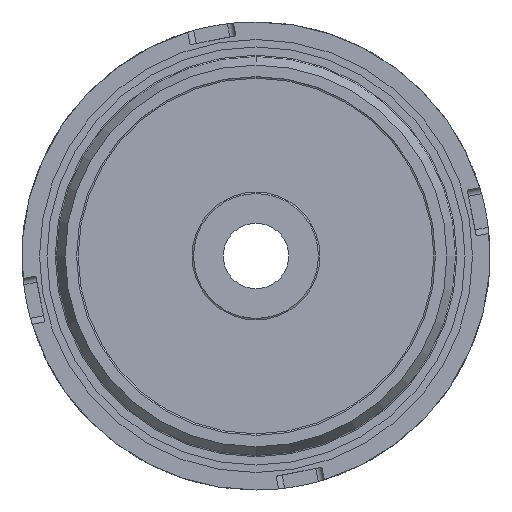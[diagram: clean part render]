
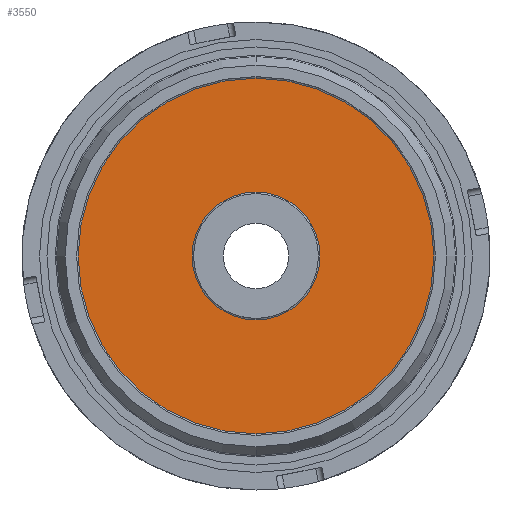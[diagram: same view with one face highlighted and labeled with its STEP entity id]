
A CAD part, front view. The second image highlights one B-rep face of the part: STEP entity #3550.
In plain terms, the highlighted planar face has unit normal (0, -1, 0).
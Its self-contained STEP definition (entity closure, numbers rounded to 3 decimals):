
#3550 = ADVANCED_FACE ( 'NONE', ( #26854, #14748 ), #5006, .T. ) ;
#4700 = DIRECTION ( 'NONE',  ( 0., 0., -1. ) ) ;
#4781 = DIRECTION ( 'NONE',  ( 0., -1., 0. ) ) ;
#5006 = PLANE ( 'NONE',  #59606 ) ;
#6659 = CARTESIAN_POINT ( 'NONE',  ( 0., 6., 0. ) ) ;
#6769 = ORIENTED_EDGE ( 'NONE', *, *, #43195, .T. ) ;
#7477 = EDGE_LOOP ( 'NONE', ( #6769, #8560 ) ) ;
#7738 = DIRECTION ( 'NONE',  ( 0., -1., 0. ) ) ;
#8560 = ORIENTED_EDGE ( 'NONE', *, *, #53140, .T. ) ;
#9711 = ORIENTED_EDGE ( 'NONE', *, *, #60008, .T. ) ;
#10224 = CIRCLE ( 'NONE', #17233, 57. ) ;
#11047 = CARTESIAN_POINT ( 'NONE',  ( 0., 6., 0. ) ) ;
#12266 = ORIENTED_EDGE ( 'NONE', *, *, #29620, .T. ) ;
#12967 = VERTEX_POINT ( 'NONE', #46585 ) ;
#14748 = FACE_BOUND ( 'NONE', #56953, .T. ) ;
#15411 = DIRECTION ( 'NONE',  ( 0., 1., 0. ) ) ;
#16344 = DIRECTION ( 'NONE',  ( 0., 0., -1. ) ) ;
#17233 = AXIS2_PLACEMENT_3D ( 'NONE', #57306, #26830, #62403 ) ;
#19847 = CIRCLE ( 'NONE', #51902, 20.5 ) ;
#26830 = DIRECTION ( 'NONE',  ( 0., -1., 0. ) ) ;
#26854 = FACE_OUTER_BOUND ( 'NONE', #7477, .T. ) ;
#27254 = CIRCLE ( 'NONE', #42879, 20.5 ) ;
#29620 = EDGE_CURVE ( 'NONE', #58147, #12967, #19847, .T. ) ;
#31359 = CARTESIAN_POINT ( 'NONE',  ( 0., 6., 20.5 ) ) ;
#35596 = CARTESIAN_POINT ( 'NONE',  ( 0., 6., -57. ) ) ;
#38551 = CARTESIAN_POINT ( 'NONE',  ( 0., 6., 0. ) ) ;
#39993 = AXIS2_PLACEMENT_3D ( 'NONE', #38551, #7738, #43618 ) ;
#40270 = CIRCLE ( 'NONE', #39993, 57. ) ;
#42879 = AXIS2_PLACEMENT_3D ( 'NONE', #11047, #46841, #16344 ) ;
#43195 = EDGE_CURVE ( 'NONE', #50255, #56345, #40270, .T. ) ;
#43618 = DIRECTION ( 'NONE',  ( 0., 0., -1. ) ) ;
#45948 = CARTESIAN_POINT ( 'NONE',  ( 0., 6., 0. ) ) ;
#46585 = CARTESIAN_POINT ( 'NONE',  ( 0., 6., -20.5 ) ) ;
#46841 = DIRECTION ( 'NONE',  ( 0., 1., 0. ) ) ;
#50255 = VERTEX_POINT ( 'NONE', #35596 ) ;
#50346 = CARTESIAN_POINT ( 'NONE',  ( 0., 6., 57. ) ) ;
#51007 = DIRECTION ( 'NONE',  ( 0., 0., -1. ) ) ;
#51902 = AXIS2_PLACEMENT_3D ( 'NONE', #45948, #15411, #51007 ) ;
#53140 = EDGE_CURVE ( 'NONE', #56345, #50255, #10224, .T. ) ;
#56345 = VERTEX_POINT ( 'NONE', #50346 ) ;
#56953 = EDGE_LOOP ( 'NONE', ( #9711, #12266 ) ) ;
#57306 = CARTESIAN_POINT ( 'NONE',  ( 0., 6., 0. ) ) ;
#58147 = VERTEX_POINT ( 'NONE', #31359 ) ;
#59606 = AXIS2_PLACEMENT_3D ( 'NONE', #6659, #4781, #4700 ) ;
#60008 = EDGE_CURVE ( 'NONE', #12967, #58147, #27254, .T. ) ;
#62403 = DIRECTION ( 'NONE',  ( 0., 0., -1. ) ) ;
